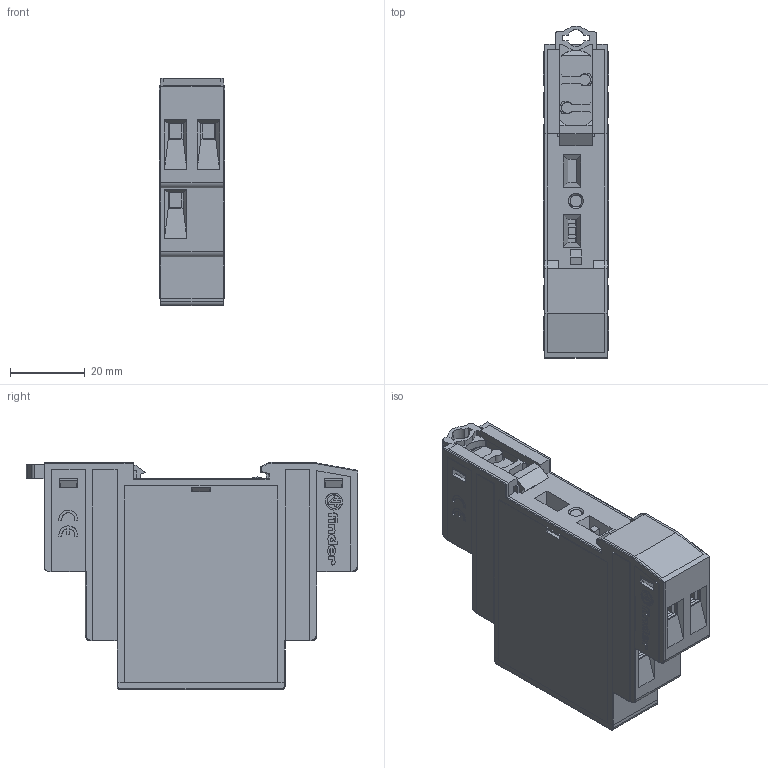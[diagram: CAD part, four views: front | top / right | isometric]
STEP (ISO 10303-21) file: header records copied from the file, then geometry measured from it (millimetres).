
FILE_DESCRIPTION(('STEP AP214'),'2;1');
FILE_NAME('19_31---catalogo_OK.stp','2011-02-23T14:38:54',(''),(''),'2007.1.106','THINKDESIGN','');
FILE_SCHEMA(('AUTOMOTIVE_DESIGN'));
Products named in the file (1): None
Bounding box: 17.5 x 88.85 x 60.8 mm (x, y, z)
Surface area: 19189.5 mm2 (no closed solid volume)
Topology: 0 solids, 0 shells, 1063 faces, 6422 edges, 6400 vertices
Faces by surface type: plane 841, bspline 112, cylinder 110
Full cylindrical faces by diameter (mm): 3 x7, 5 x5
Entity records: 65592 total; most frequent: CARTESIAN_POINT 20128, DIRECTION 7792, COMPOSITE_CURVE_SEGMENT 6422, TRIMMED_CURVE 5662, VECTOR 5474, LINE 5474, AXIS2_PLACEMENT_3D 1159, OUTER_BOUNDARY_CURVE 1063
